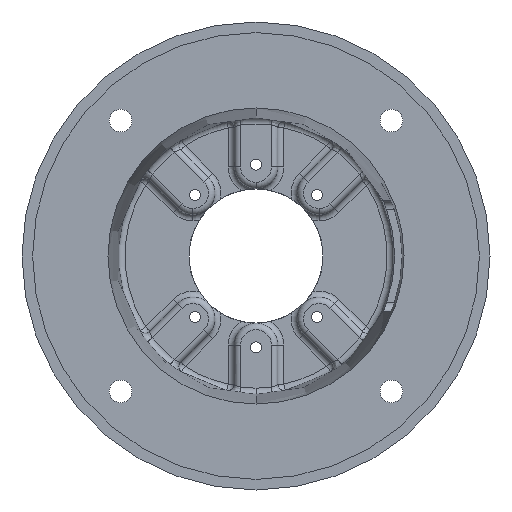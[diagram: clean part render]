
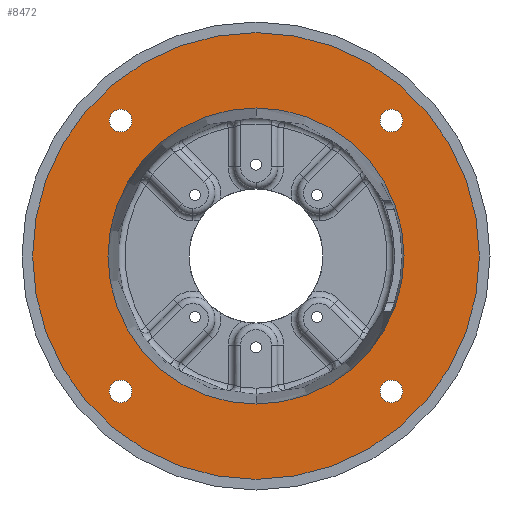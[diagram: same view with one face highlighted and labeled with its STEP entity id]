
A CAD part, front view. The second image highlights one B-rep face of the part: STEP entity #8472.
In plain terms, the highlighted planar face has unit normal (0, -1, 0).
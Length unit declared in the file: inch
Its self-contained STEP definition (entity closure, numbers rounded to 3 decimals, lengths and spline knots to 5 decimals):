
#201 = CARTESIAN_POINT ( 'NONE',  ( -3.18198, 0.18, 3.44761 ) ) ;
#214 = VERTEX_POINT ( 'NONE', #201 ) ;
#400 = DIRECTION ( 'NONE',  ( 0., 0., -1. ) ) ;
#574 = CARTESIAN_POINT ( 'NONE',  ( 3.18198, 0.18, 3.44761 ) ) ;
#859 = CIRCLE ( 'NONE', #8886, 5.2505 ) ;
#1268 = ORIENTED_EDGE ( 'NONE', *, *, #5607, .T. ) ;
#1574 = FACE_OUTER_BOUND ( 'NONE', #13135, .T. ) ;
#1615 = VERTEX_POINT ( 'NONE', #10439 ) ;
#1907 = ORIENTED_EDGE ( 'NONE', *, *, #7230, .F. ) ;
#1969 = VERTEX_POINT ( 'NONE', #13706 ) ;
#2045 = CARTESIAN_POINT ( 'NONE',  ( 0., 0.18, 5.2505 ) ) ;
#2066 = CIRCLE ( 'NONE', #10005, 0.26562 ) ;
#2289 = AXIS2_PLACEMENT_3D ( 'NONE', #11715, #5388, #12751 ) ;
#2411 = ORIENTED_EDGE ( 'NONE', *, *, #13703, .T. ) ;
#2471 = EDGE_CURVE ( 'NONE', #4729, #11245, #4639, .T. ) ;
#2627 = VERTEX_POINT ( 'NONE', #9644 ) ;
#2780 = DIRECTION ( 'NONE',  ( 0., -1., 0. ) ) ;
#2834 = VERTEX_POINT ( 'NONE', #13424 ) ;
#3284 = CIRCLE ( 'NONE', #13078, 5.2505 ) ;
#3571 = EDGE_CURVE ( 'NONE', #2834, #11001, #2066, .T. ) ;
#3583 = CIRCLE ( 'NONE', #9752, 0.26562 ) ;
#3754 = DIRECTION ( 'NONE',  ( 0., -1., 0. ) ) ;
#3823 = EDGE_CURVE ( 'NONE', #1615, #1969, #3583, .T. ) ;
#3894 = CARTESIAN_POINT ( 'NONE',  ( 3.18198, 0.18, -3.18198 ) ) ;
#3938 = DIRECTION ( 'NONE',  ( 0., 1., 0. ) ) ;
#4455 = DIRECTION ( 'NONE',  ( 0., -1., 0. ) ) ;
#4499 = PLANE ( 'NONE',  #10463 ) ;
#4503 = FACE_BOUND ( 'NONE', #6438, .T. ) ;
#4639 = CIRCLE ( 'NONE', #6333, 3.47973 ) ;
#4679 = AXIS2_PLACEMENT_3D ( 'NONE', #5727, #13086, #6801 ) ;
#4699 = CARTESIAN_POINT ( 'NONE',  ( -3.18198, 0.18, -2.91636 ) ) ;
#4724 = EDGE_LOOP ( 'NONE', ( #13096, #13640 ) ) ;
#4729 = VERTEX_POINT ( 'NONE', #6375 ) ;
#4830 = CIRCLE ( 'NONE', #10763, 0.26562 ) ;
#4995 = DIRECTION ( 'NONE',  ( 0., 0., -1. ) ) ;
#5068 = CARTESIAN_POINT ( 'NONE',  ( 3.18198, 0.18, 3.18198 ) ) ;
#5199 = DIRECTION ( 'NONE',  ( 0., 1., 0. ) ) ;
#5329 = AXIS2_PLACEMENT_3D ( 'NONE', #5068, #12464, #6139 ) ;
#5388 = DIRECTION ( 'NONE',  ( 0., -1., 0. ) ) ;
#5504 = CIRCLE ( 'NONE', #13331, 3.47973 ) ;
#5517 = CIRCLE ( 'NONE', #12756, 0.26562 ) ;
#5587 = DIRECTION ( 'NONE',  ( 0., 0., -1. ) ) ;
#5607 = EDGE_CURVE ( 'NONE', #10512, #6234, #3284, .T. ) ;
#5727 = CARTESIAN_POINT ( 'NONE',  ( -3.18198, 0.18, 3.18198 ) ) ;
#5939 = CARTESIAN_POINT ( 'NONE',  ( 3.18198, 0.18, -3.18198 ) ) ;
#6139 = DIRECTION ( 'NONE',  ( 0., 0., -1. ) ) ;
#6234 = VERTEX_POINT ( 'NONE', #6966 ) ;
#6248 = DIRECTION ( 'NONE',  ( 0., -1., 0. ) ) ;
#6333 = AXIS2_PLACEMENT_3D ( 'NONE', #10322, #3938, #11379 ) ;
#6375 = CARTESIAN_POINT ( 'NONE',  ( 0., 0.18, -3.47973 ) ) ;
#6438 = EDGE_LOOP ( 'NONE', ( #11037, #6791 ) ) ;
#6506 = EDGE_CURVE ( 'NONE', #214, #11972, #8833, .T. ) ;
#6515 = CIRCLE ( 'NONE', #10533, 0.26562 ) ;
#6567 = ORIENTED_EDGE ( 'NONE', *, *, #6506, .F. ) ;
#6572 = CARTESIAN_POINT ( 'NONE',  ( 0., 0.18, 0. ) ) ;
#6791 = ORIENTED_EDGE ( 'NONE', *, *, #12208, .F. ) ;
#6801 = DIRECTION ( 'NONE',  ( 0., 0., -1. ) ) ;
#6925 = DIRECTION ( 'NONE',  ( 0., -1., 0. ) ) ;
#6966 = CARTESIAN_POINT ( 'NONE',  ( 0., 0.18, -5.2505 ) ) ;
#7030 = DIRECTION ( 'NONE',  ( 0., 0., -1. ) ) ;
#7055 = ORIENTED_EDGE ( 'NONE', *, *, #8039, .F. ) ;
#7230 = EDGE_CURVE ( 'NONE', #11972, #214, #11934, .T. ) ;
#7328 = CARTESIAN_POINT ( 'NONE',  ( 0., 0.18, 3.47973 ) ) ;
#7368 = FACE_BOUND ( 'NONE', #4724, .T. ) ;
#7435 = ORIENTED_EDGE ( 'NONE', *, *, #2471, .T. ) ;
#7706 = FACE_BOUND ( 'NONE', #7762, .T. ) ;
#7762 = EDGE_LOOP ( 'NONE', ( #1907, #6567 ) ) ;
#8031 = VERTEX_POINT ( 'NONE', #574 ) ;
#8039 = EDGE_CURVE ( 'NONE', #2627, #8031, #12242, .T. ) ;
#8103 = EDGE_CURVE ( 'NONE', #6234, #10512, #859, .T. ) ;
#8472 = ADVANCED_FACE ( 'NONE', ( #7706, #12940, #7368, #4503, #1574, #12618 ), #4499, .T. ) ;
#8757 = ORIENTED_EDGE ( 'NONE', *, *, #8103, .T. ) ;
#8833 = CIRCLE ( 'NONE', #2289, 0.26562 ) ;
#8886 = AXIS2_PLACEMENT_3D ( 'NONE', #12554, #6248, #13598 ) ;
#8900 = EDGE_LOOP ( 'NONE', ( #7435, #2411 ) ) ;
#9088 = EDGE_CURVE ( 'NONE', #8031, #2627, #5517, .T. ) ;
#9218 = CARTESIAN_POINT ( 'NONE',  ( 3.18198, 0.18, 3.18198 ) ) ;
#9644 = CARTESIAN_POINT ( 'NONE',  ( 3.18198, 0.18, 2.91636 ) ) ;
#9752 = AXIS2_PLACEMENT_3D ( 'NONE', #5939, #13303, #7030 ) ;
#10005 = AXIS2_PLACEMENT_3D ( 'NONE', #10809, #4455, #11874 ) ;
#10158 = CARTESIAN_POINT ( 'NONE',  ( -3.18198, 0.18, -3.18198 ) ) ;
#10248 = DIRECTION ( 'NONE',  ( 0., 0., -1. ) ) ;
#10322 = CARTESIAN_POINT ( 'NONE',  ( 0., 0.18, 0. ) ) ;
#10439 = CARTESIAN_POINT ( 'NONE',  ( 3.18198, 0.18, -2.91636 ) ) ;
#10463 = AXIS2_PLACEMENT_3D ( 'NONE', #6572, #11909, #5587 ) ;
#10512 = VERTEX_POINT ( 'NONE', #2045 ) ;
#10533 = AXIS2_PLACEMENT_3D ( 'NONE', #3894, #11327, #4995 ) ;
#10763 = AXIS2_PLACEMENT_3D ( 'NONE', #10158, #3754, #11196 ) ;
#10809 = CARTESIAN_POINT ( 'NONE',  ( -3.18198, 0.18, -3.18198 ) ) ;
#10854 = CARTESIAN_POINT ( 'NONE',  ( -3.18198, 0.18, 2.91636 ) ) ;
#11001 = VERTEX_POINT ( 'NONE', #4699 ) ;
#11037 = ORIENTED_EDGE ( 'NONE', *, *, #3571, .F. ) ;
#11196 = DIRECTION ( 'NONE',  ( 0., 0., -1. ) ) ;
#11245 = VERTEX_POINT ( 'NONE', #7328 ) ;
#11327 = DIRECTION ( 'NONE',  ( 0., -1., 0. ) ) ;
#11379 = DIRECTION ( 'NONE',  ( 0., 0., -1. ) ) ;
#11516 = CARTESIAN_POINT ( 'NONE',  ( 0., 0.18, 0. ) ) ;
#11715 = CARTESIAN_POINT ( 'NONE',  ( -3.18198, 0.18, 3.18198 ) ) ;
#11874 = DIRECTION ( 'NONE',  ( 0., 0., -1. ) ) ;
#11909 = DIRECTION ( 'NONE',  ( 0., -1., 0. ) ) ;
#11934 = CIRCLE ( 'NONE', #4679, 0.26562 ) ;
#11972 = VERTEX_POINT ( 'NONE', #10854 ) ;
#11988 = ORIENTED_EDGE ( 'NONE', *, *, #9088, .F. ) ;
#12208 = EDGE_CURVE ( 'NONE', #11001, #2834, #4830, .T. ) ;
#12242 = CIRCLE ( 'NONE', #5329, 0.26562 ) ;
#12464 = DIRECTION ( 'NONE',  ( 0., -1., 0. ) ) ;
#12554 = CARTESIAN_POINT ( 'NONE',  ( 0., 0.18, 0. ) ) ;
#12571 = DIRECTION ( 'NONE',  ( 0., 0., -1. ) ) ;
#12618 = FACE_BOUND ( 'NONE', #8900, .T. ) ;
#12751 = DIRECTION ( 'NONE',  ( 0., 0., -1. ) ) ;
#12756 = AXIS2_PLACEMENT_3D ( 'NONE', #9218, #2780, #10248 ) ;
#12940 = FACE_BOUND ( 'NONE', #13650, .T. ) ;
#13078 = AXIS2_PLACEMENT_3D ( 'NONE', #13194, #6925, #400 ) ;
#13086 = DIRECTION ( 'NONE',  ( 0., -1., 0. ) ) ;
#13096 = ORIENTED_EDGE ( 'NONE', *, *, #13614, .F. ) ;
#13135 = EDGE_LOOP ( 'NONE', ( #8757, #1268 ) ) ;
#13194 = CARTESIAN_POINT ( 'NONE',  ( 0., 0.18, 0. ) ) ;
#13303 = DIRECTION ( 'NONE',  ( 0., -1., 0. ) ) ;
#13331 = AXIS2_PLACEMENT_3D ( 'NONE', #11516, #5199, #12571 ) ;
#13424 = CARTESIAN_POINT ( 'NONE',  ( -3.18198, 0.18, -3.44761 ) ) ;
#13598 = DIRECTION ( 'NONE',  ( 0., 0., -1. ) ) ;
#13614 = EDGE_CURVE ( 'NONE', #1969, #1615, #6515, .T. ) ;
#13640 = ORIENTED_EDGE ( 'NONE', *, *, #3823, .F. ) ;
#13650 = EDGE_LOOP ( 'NONE', ( #7055, #11988 ) ) ;
#13703 = EDGE_CURVE ( 'NONE', #11245, #4729, #5504, .T. ) ;
#13706 = CARTESIAN_POINT ( 'NONE',  ( 3.18198, 0.18, -3.44761 ) ) ;
